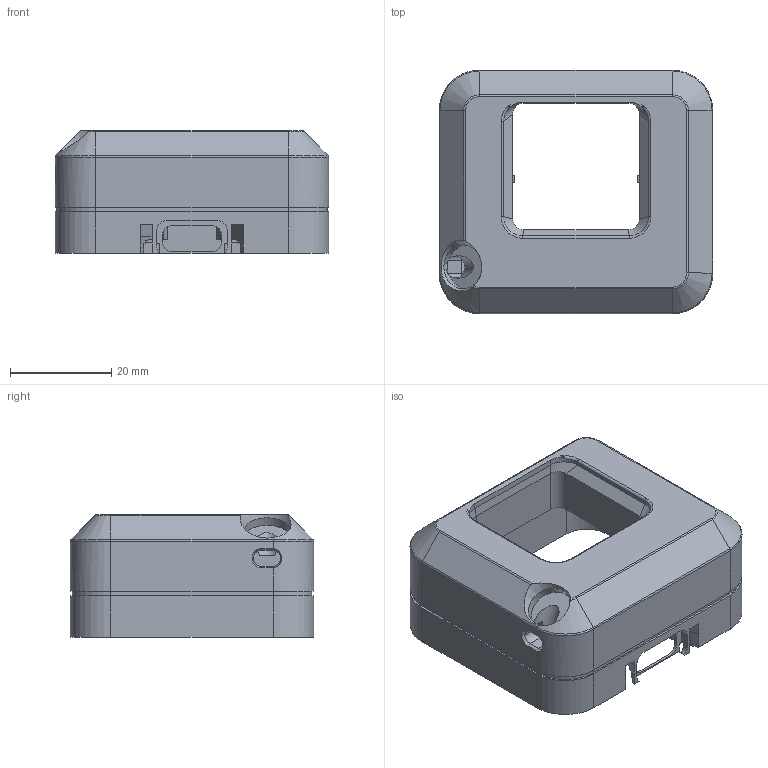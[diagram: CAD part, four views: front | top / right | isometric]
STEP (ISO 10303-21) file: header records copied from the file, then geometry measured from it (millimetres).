
FILE_DESCRIPTION(('Open CASCADE Model'),'2;1');
FILE_NAME('Open CASCADE Shape Model','2026-10-07T16:08:42',('Author'),( 'Open CASCADE'),'Open CASCADE STEP processor 7.9','Open CASCADE 7.9' ,'Unknown');
FILE_SCHEMA(('AUTOMOTIVE_DESIGN { 1 0 10303 214 1 1 1 1 }'));
Length unit declared in the file: millimetre
Products named in the file (1): Open CASCADE STEP translator 7.9 1
Bounding box: 54 x 48 x 24.2 mm (x, y, z)
Volume: 20806.2 mm3; surface area: 17740.4 mm2
Topology: 1 solids, 1 shells, 524 faces, 1432 edges, 928 vertices
Faces by surface type: plane 301, extrusion 100, cylinder 64, bspline 38, cone 13, torus 8
Full cylindrical faces by diameter (mm): 3.4 x4, 4.4 x1, 8.7 x1
Entity records: 36958 total; most frequent: CARTESIAN_POINT 10977, DIRECTION 3812, ORIENTED_EDGE 2864, PCURVE 2864, DEFINITIONAL_REPRESENTATION 2864, VECTOR 2608, LINE 2508, B_SPLINE_CURVE_WITH_KNOTS 1586
